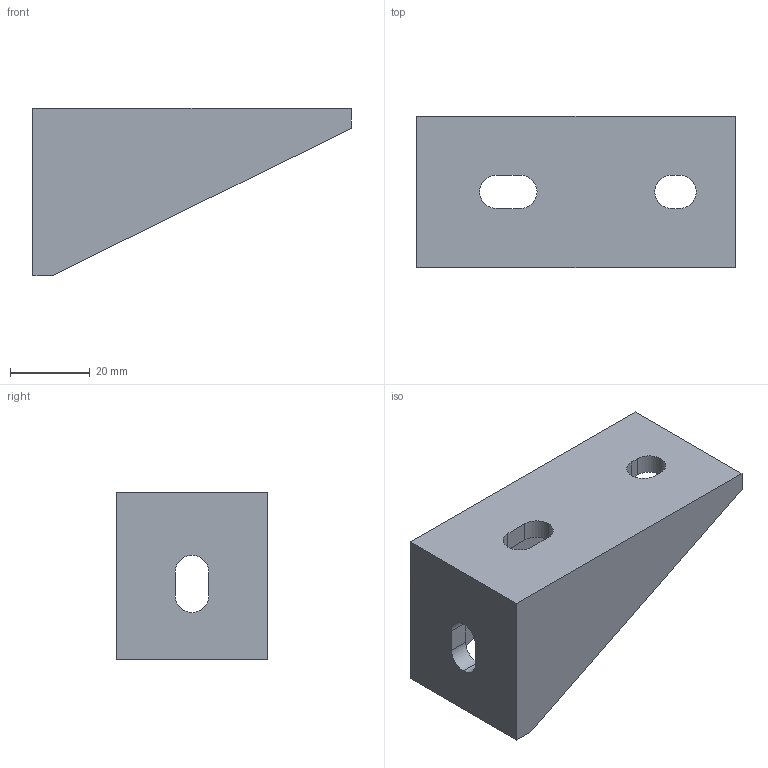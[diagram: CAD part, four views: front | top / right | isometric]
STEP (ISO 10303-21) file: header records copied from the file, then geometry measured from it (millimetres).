
FILE_DESCRIPTION (( 'STEP AP214' ), '1' );
FILE_NAME ('FBFA 38C.step', '2017-04-05T08:01:32', ( '' ), ( '' ), 'SwSTEP 2.0', 'SolidWorks 2015', '' );
FILE_SCHEMA (( 'AUTOMOTIVE_DESIGN' ));
Length unit declared in the file: millimetre
Products named in the file (1): FBFA 38C
Bounding box: 80 x 38 x 42 mm (x, y, z)
Volume: 34685.7 mm3; surface area: 15676.4 mm2
Topology: 1 solids, 1 shells, 26 faces, 70 edges, 46 vertices
Faces by surface type: plane 18, cylinder 8
Entity records: 860 total; most frequent: CARTESIAN_POINT 143, DIRECTION 140, ORIENTED_EDGE 140, EDGE_CURVE 70, LINE 54, VECTOR 54, VERTEX_POINT 46, AXIS2_PLACEMENT_3D 43
